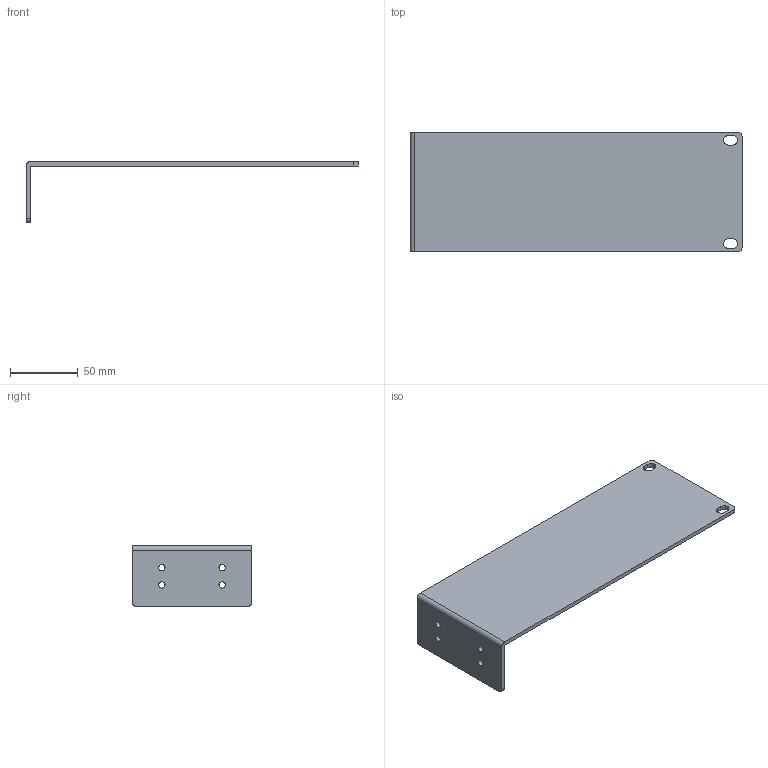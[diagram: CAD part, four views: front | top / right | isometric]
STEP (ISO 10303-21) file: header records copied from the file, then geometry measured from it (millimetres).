
FILE_DESCRIPTION((''),'2;1');
FILE_NAME('2602-363','2016-07-26T',('mboehnle'),('Keithley Instruments'),'CREO PARAMETRIC BY PTC INC, 2014440','CREO PARAMETRIC BY PTC INC, 2014440','');
FILE_SCHEMA(('CONFIG_CONTROL_DESIGN'));
Length unit declared in the file: inch
Products named in the file (1): 2602-363
Bounding box: 244.47 x 88.14 x 44.58 mm (x, y, z)
Volume: 79160.3 mm3; surface area: 52591 mm2
Topology: 1 solids, 1 shells, 29 faces, 81 edges, 54 vertices
Faces by surface type: cylinder 17, plane 12
Entity records: 1013 total; most frequent: DIRECTION 173, CARTESIAN_POINT 164, ORIENTED_EDGE 162, EDGE_CURVE 81, AXIS2_PLACEMENT_3D 63, VERTEX_POINT 54, VECTOR 47, LINE 47
